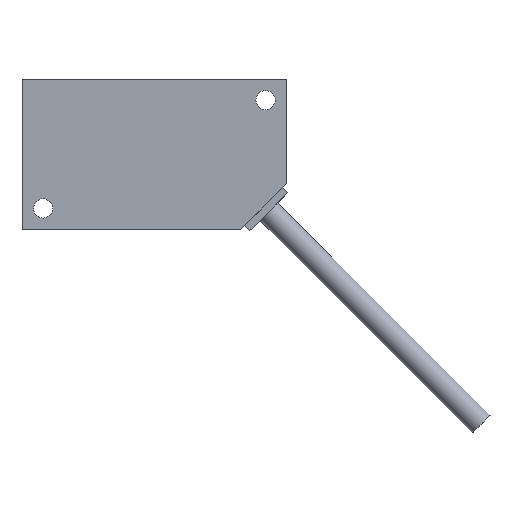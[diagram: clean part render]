
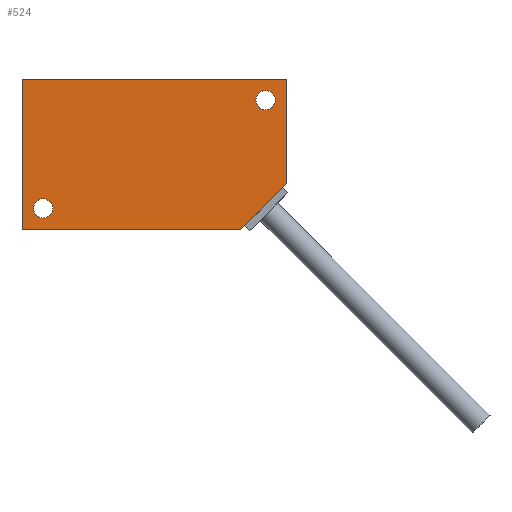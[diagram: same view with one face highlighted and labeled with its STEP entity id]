
A CAD part, left-side view. The second image highlights one B-rep face of the part: STEP entity #524.
In plain terms, the highlighted planar face has unit normal (-1, 0, 0).
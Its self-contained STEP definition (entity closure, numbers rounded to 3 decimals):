
#12 = VECTOR ( 'NONE', #1151, 1000. ) ;
#49 = DIRECTION ( 'NONE',  ( -1., 0., 0. ) ) ;
#140 = VERTEX_POINT ( 'NONE', #2053 ) ;
#163 = CARTESIAN_POINT ( 'NONE',  ( -10., -14.354, -25. ) ) ;
#204 = CARTESIAN_POINT ( 'NONE',  ( -10., 18.5, -19.9 ) ) ;
#222 = LINE ( 'NONE', #404, #2001 ) ;
#226 = CARTESIAN_POINT ( 'NONE',  ( -10., -22., 0. ) ) ;
#263 = CARTESIAN_POINT ( 'NONE',  ( -10., 18.5, -21.5 ) ) ;
#386 = EDGE_CURVE ( 'NONE', #980, #838, #1075, .T. ) ;
#393 = DIRECTION ( 'NONE',  ( 0., 0., 1. ) ) ;
#394 = VERTEX_POINT ( 'NONE', #1552 ) ;
#404 = CARTESIAN_POINT ( 'NONE',  ( -10., -22., -17.354 ) ) ;
#434 = DIRECTION ( 'NONE',  ( 0., 0., -1. ) ) ;
#466 = ORIENTED_EDGE ( 'NONE', *, *, #663, .T. ) ;
#474 = CARTESIAN_POINT ( 'NONE',  ( -10., 18.5, -21.5 ) ) ;
#515 = VERTEX_POINT ( 'NONE', #204 ) ;
#524 = ADVANCED_FACE ( 'NONE', ( #1269, #2242, #599 ), #1691, .T. ) ;
#568 = DIRECTION ( 'NONE',  ( 0., 0., -1. ) ) ;
#576 = LINE ( 'NONE', #2102, #12 ) ;
#590 = VERTEX_POINT ( 'NONE', #731 ) ;
#599 = FACE_OUTER_BOUND ( 'NONE', #2139, .T. ) ;
#601 = LINE ( 'NONE', #754, #1038 ) ;
#621 = EDGE_CURVE ( 'NONE', #838, #2261, #222, .T. ) ;
#653 = EDGE_CURVE ( 'NONE', #1847, #980, #601, .T. ) ;
#663 = EDGE_CURVE ( 'NONE', #394, #1847, #576, .T. ) ;
#665 = CARTESIAN_POINT ( 'NONE',  ( -10., -22., -17.354 ) ) ;
#686 = EDGE_CURVE ( 'NONE', #515, #590, #1892, .T. ) ;
#731 = CARTESIAN_POINT ( 'NONE',  ( -10., 18.5, -23.1 ) ) ;
#734 = CARTESIAN_POINT ( 'NONE',  ( -10., -18.5, -3.5 ) ) ;
#754 = CARTESIAN_POINT ( 'NONE',  ( -10., 22., -25. ) ) ;
#775 = DIRECTION ( 'NONE',  ( 0., 0., 1. ) ) ;
#838 = VERTEX_POINT ( 'NONE', #665 ) ;
#844 = AXIS2_PLACEMENT_3D ( 'NONE', #263, #1704, #2085 ) ;
#853 = VECTOR ( 'NONE', #1853, 1000. ) ;
#909 = ORIENTED_EDGE ( 'NONE', *, *, #386, .T. ) ;
#929 = ORIENTED_EDGE ( 'NONE', *, *, #621, .T. ) ;
#980 = VERTEX_POINT ( 'NONE', #2264 ) ;
#1027 = DIRECTION ( 'NONE',  ( 1., 0., 0. ) ) ;
#1038 = VECTOR ( 'NONE', #1494, 1000. ) ;
#1075 = LINE ( 'NONE', #163, #1341 ) ;
#1119 = LINE ( 'NONE', #1461, #853 ) ;
#1151 = DIRECTION ( 'NONE',  ( 0., 0., -1. ) ) ;
#1166 = DIRECTION ( 'NONE',  ( 0., 0., -1. ) ) ;
#1220 = CIRCLE ( 'NONE', #1883, 1.6 ) ;
#1221 = AXIS2_PLACEMENT_3D ( 'NONE', #1512, #49, #775 ) ;
#1269 = FACE_BOUND ( 'NONE', #1626, .T. ) ;
#1341 = VECTOR ( 'NONE', #1357, 1000. ) ;
#1345 = AXIS2_PLACEMENT_3D ( 'NONE', #2096, #1913, #434 ) ;
#1357 = DIRECTION ( 'NONE',  ( 0., -0.707, 0.707 ) ) ;
#1461 = CARTESIAN_POINT ( 'NONE',  ( -10., -22., 0. ) ) ;
#1476 = ORIENTED_EDGE ( 'NONE', *, *, #653, .T. ) ;
#1483 = VERTEX_POINT ( 'NONE', #1632 ) ;
#1494 = DIRECTION ( 'NONE',  ( 0., -1., 0. ) ) ;
#1512 = CARTESIAN_POINT ( 'NONE',  ( -10., 0., 0. ) ) ;
#1552 = CARTESIAN_POINT ( 'NONE',  ( -10., 22., 0. ) ) ;
#1608 = ORIENTED_EDGE ( 'NONE', *, *, #1903, .T. ) ;
#1626 = EDGE_LOOP ( 'NONE', ( #1608, #1829 ) ) ;
#1631 = ORIENTED_EDGE ( 'NONE', *, *, #1734, .T. ) ;
#1632 = CARTESIAN_POINT ( 'NONE',  ( -10., -18.5, -1.9 ) ) ;
#1691 = PLANE ( 'NONE',  #1221 ) ;
#1704 = DIRECTION ( 'NONE',  ( 1., 0., 0. ) ) ;
#1734 = EDGE_CURVE ( 'NONE', #1483, #140, #1220, .T. ) ;
#1756 = CIRCLE ( 'NONE', #1345, 1.6 ) ;
#1829 = ORIENTED_EDGE ( 'NONE', *, *, #686, .T. ) ;
#1845 = ORIENTED_EDGE ( 'NONE', *, *, #1896, .T. ) ;
#1847 = VERTEX_POINT ( 'NONE', #1938 ) ;
#1853 = DIRECTION ( 'NONE',  ( 0., 1., 0. ) ) ;
#1883 = AXIS2_PLACEMENT_3D ( 'NONE', #734, #1890, #568 ) ;
#1890 = DIRECTION ( 'NONE',  ( 1., 0., 0. ) ) ;
#1892 = CIRCLE ( 'NONE', #844, 1.6 ) ;
#1896 = EDGE_CURVE ( 'NONE', #140, #1483, #1756, .T. ) ;
#1903 = EDGE_CURVE ( 'NONE', #590, #515, #2262, .T. ) ;
#1913 = DIRECTION ( 'NONE',  ( 1., 0., 0. ) ) ;
#1937 = ORIENTED_EDGE ( 'NONE', *, *, #2111, .T. ) ;
#1938 = CARTESIAN_POINT ( 'NONE',  ( -10., 22., -25. ) ) ;
#1953 = AXIS2_PLACEMENT_3D ( 'NONE', #474, #1027, #1166 ) ;
#1997 = EDGE_LOOP ( 'NONE', ( #1845, #1631 ) ) ;
#2001 = VECTOR ( 'NONE', #393, 1000. ) ;
#2053 = CARTESIAN_POINT ( 'NONE',  ( -10., -18.5, -5.1 ) ) ;
#2085 = DIRECTION ( 'NONE',  ( 0., 0., -1. ) ) ;
#2096 = CARTESIAN_POINT ( 'NONE',  ( -10., -18.5, -3.5 ) ) ;
#2102 = CARTESIAN_POINT ( 'NONE',  ( -10., 22., 0. ) ) ;
#2111 = EDGE_CURVE ( 'NONE', #2261, #394, #1119, .T. ) ;
#2139 = EDGE_LOOP ( 'NONE', ( #909, #929, #1937, #466, #1476 ) ) ;
#2242 = FACE_BOUND ( 'NONE', #1997, .T. ) ;
#2261 = VERTEX_POINT ( 'NONE', #226 ) ;
#2262 = CIRCLE ( 'NONE', #1953, 1.6 ) ;
#2264 = CARTESIAN_POINT ( 'NONE',  ( -10., -14.354, -25. ) ) ;
